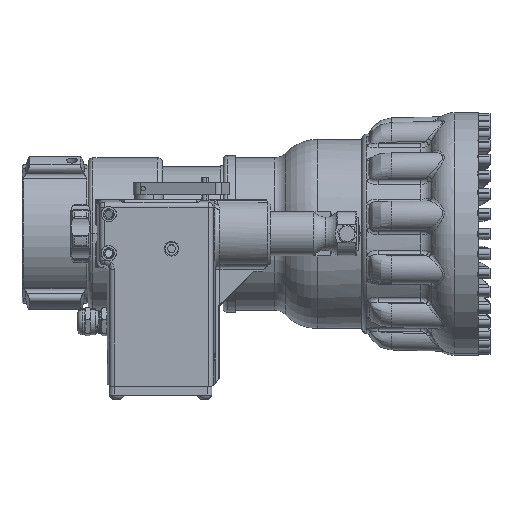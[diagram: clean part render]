
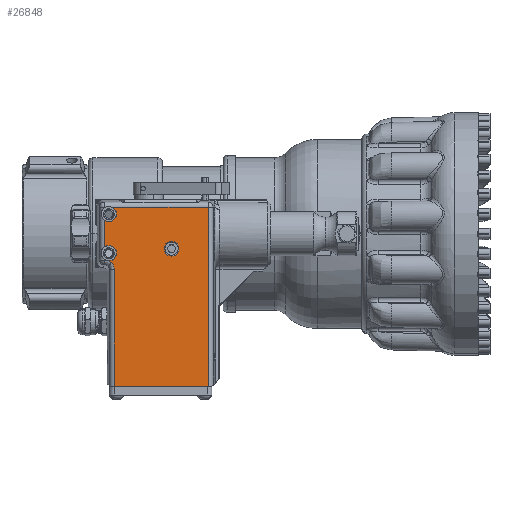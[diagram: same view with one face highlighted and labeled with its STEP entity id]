
A CAD part, top view. The second image highlights one B-rep face of the part: STEP entity #26848.
In plain terms, the highlighted planar face has unit normal (0, 0, 1).
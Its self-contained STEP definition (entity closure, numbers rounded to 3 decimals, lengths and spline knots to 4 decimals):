
#1327 =( BOUNDED_CURVE ( )  B_SPLINE_CURVE ( 3, ( #63621, #63607, #63628, #63629 ),
 .UNSPECIFIED., .F., .F. ) 
 B_SPLINE_CURVE_WITH_KNOTS ( ( 4, 4 ),
 ( 0., 0.3827 ),
 .UNSPECIFIED. ) 
 CURVE ( )  GEOMETRIC_REPRESENTATION_ITEM ( )  RATIONAL_B_SPLINE_CURVE ( ( 1., 0.988, 0.988, 1. ) ) 
 REPRESENTATION_ITEM ( '' )  );
#6693 = CARTESIAN_POINT ( 'NONE',  ( -2.728, 0.5, 5.085 ) ) ;
#6749 = CARTESIAN_POINT ( 'NONE',  ( -2.9338, -0.6947, 5.085 ) ) ;
#6789 = CARTESIAN_POINT ( 'NONE',  ( -2.7819, -0.9246, 5.085 ) ) ;
#10093 = VERTEX_POINT ( 'NONE', #32396 ) ;
#10102 = VERTEX_POINT ( 'NONE', #32406 ) ;
#10104 = VERTEX_POINT ( 'NONE', #32408 ) ;
#10108 = VERTEX_POINT ( 'NONE', #32412 ) ;
#10114 = VERTEX_POINT ( 'NONE', #32418 ) ;
#10116 = VERTEX_POINT ( 'NONE', #32420 ) ;
#10127 = VERTEX_POINT ( 'NONE', #32432 ) ;
#10216 = VERTEX_POINT ( 'NONE', #32528 ) ;
#10235 = VERTEX_POINT ( 'NONE', #32548 ) ;
#10363 = VERTEX_POINT ( 'NONE', #32684 ) ;
#16716 = EDGE_CURVE ( 'NONE', #10102, #10104, #56698, .T. ) ;
#16719 = EDGE_CURVE ( 'NONE', #37945, #10104, #56702, .T. ) ;
#16720 = EDGE_CURVE ( 'NONE', #10235, #37819, #1327, .T. ) ;
#16721 = EDGE_CURVE ( 'NONE', #10102, #10127, #56668, .T. ) ;
#16722 = EDGE_CURVE ( 'NONE', #10127, #10108, #56706, .T. ) ;
#16723 = EDGE_CURVE ( 'NONE', #37642, #10108, #56708, .T. ) ;
#16724 = EDGE_CURVE ( 'NONE', #10216, #10093, #56710, .T. ) ;
#16725 = EDGE_CURVE ( 'NONE', #10363, #10093, #56711, .T. ) ;
#16726 = EDGE_CURVE ( 'NONE', #10114, #10116, #56713, .T. ) ;
#16727 = EDGE_CURVE ( 'NONE', #10116, #10114, #56707, .T. ) ;
#21784 =( BOUNDED_CURVE ( )  B_SPLINE_CURVE ( 3, ( #41704, #70534, #70538, #70539 ),
 .UNSPECIFIED., .F., .F. ) 
 B_SPLINE_CURVE_WITH_KNOTS ( ( 4, 4 ),
 ( 5.4984, 6.2832 ),
 .UNSPECIFIED. ) 
 CURVE ( )  GEOMETRIC_REPRESENTATION_ITEM ( )  RATIONAL_B_SPLINE_CURVE ( ( 1., 0.949, 0.949, 1. ) ) 
 REPRESENTATION_ITEM ( '' )  );
#23256 = CIRCLE ( 'NONE', #46596, 0.195 ) ;
#23263 = CIRCLE ( 'NONE', #46599, 0.195 ) ;
#26848 = ADVANCED_FACE ( 'NONE', ( #36229, #36232 ), #34210, .T. ) ;
#32396 = CARTESIAN_POINT ( 'NONE',  ( -3.0369, -0.3417, 5.085 ) ) ;
#32406 = CARTESIAN_POINT ( 'NONE',  ( -0.3825, -3.9, 5.085 ) ) ;
#32408 = CARTESIAN_POINT ( 'NONE',  ( -2.7819, -3.9, 5.085 ) ) ;
#32412 = CARTESIAN_POINT ( 'NONE',  ( -2.8471, 0.6796, 5.085 ) ) ;
#32418 = CARTESIAN_POINT ( 'NONE',  ( -1.1495, -0.385, 5.085 ) ) ;
#32420 = CARTESIAN_POINT ( 'NONE',  ( -1.4865, -0.385, 5.085 ) ) ;
#32432 = CARTESIAN_POINT ( 'NONE',  ( -0.3825, 0.6796, 5.085 ) ) ;
#32528 = CARTESIAN_POINT ( 'NONE',  ( -3.0369, 0.3417, 5.085 ) ) ;
#32548 = CARTESIAN_POINT ( 'NONE',  ( -2.855, -0.7479, 5.085 ) ) ;
#32684 = CARTESIAN_POINT ( 'NONE',  ( -2.728, -0.5, 5.085 ) ) ;
#34205 = CARTESIAN_POINT ( 'NONE',  ( -2.9672, -0.8601, 5.085 ) ) ;
#34210 = PLANE ( 'NONE',  #34710 ) ;
#34212 = DIRECTION ( 'NONE',  ( 0., 0., 1. ) ) ;
#34213 = DIRECTION ( 'NONE',  ( 1., 0., 0. ) ) ;
#34710 = AXIS2_PLACEMENT_3D ( 'NONE', #34205, #34212, #34213 ) ;
#36229 = FACE_OUTER_BOUND ( 'NONE', #44337, .T. ) ;
#36232 = FACE_BOUND ( 'NONE', #44335, .T. ) ;
#37642 = VERTEX_POINT ( 'NONE', #6693 ) ;
#37819 = VERTEX_POINT ( 'NONE', #6749 ) ;
#37945 = VERTEX_POINT ( 'NONE', #6789 ) ;
#41652 = CARTESIAN_POINT ( 'NONE',  ( -2.923, 0.5, 5.085 ) ) ;
#41653 = DIRECTION ( 'NONE',  ( 0., 0., 1. ) ) ;
#41654 = DIRECTION ( 'NONE',  ( 1., 0., 0. ) ) ;
#41704 = CARTESIAN_POINT ( 'NONE',  ( -2.7819, -0.9246, 5.085 ) ) ;
#44085 = ORIENTED_EDGE ( 'NONE', *, *, #61921, .F. ) ;
#44086 = ORIENTED_EDGE ( 'NONE', *, *, #16720, .F. ) ;
#44087 = ORIENTED_EDGE ( 'NONE', *, *, #61923, .F. ) ;
#44088 = ORIENTED_EDGE ( 'NONE', *, *, #16719, .T. ) ;
#44089 = ORIENTED_EDGE ( 'NONE', *, *, #16716, .F. ) ;
#44090 = ORIENTED_EDGE ( 'NONE', *, *, #16721, .T. ) ;
#44091 = ORIENTED_EDGE ( 'NONE', *, *, #16722, .T. ) ;
#44092 = ORIENTED_EDGE ( 'NONE', *, *, #16723, .F. ) ;
#44093 = ORIENTED_EDGE ( 'NONE', *, *, #61912, .F. ) ;
#44094 = ORIENTED_EDGE ( 'NONE', *, *, #16724, .T. ) ;
#44095 = ORIENTED_EDGE ( 'NONE', *, *, #16725, .F. ) ;
#44096 = ORIENTED_EDGE ( 'NONE', *, *, #16726, .F. ) ;
#44097 = ORIENTED_EDGE ( 'NONE', *, *, #16727, .F. ) ;
#44335 = EDGE_LOOP ( 'NONE', ( #44096, #44097 ) ) ;
#44337 = EDGE_LOOP ( 'NONE', ( #44085, #44086, #44087, #44088, #44089, #44090, #44091, #44092, #44093, #44094, #44095 ) ) ;
#46596 = AXIS2_PLACEMENT_3D ( 'NONE', #41652, #41653, #41654 ) ;
#46599 = AXIS2_PLACEMENT_3D ( 'NONE', #70535, #70536, #70537 ) ;
#47738 = AXIS2_PLACEMENT_3D ( 'NONE', #63648, #63650, #63652 ) ;
#47739 = AXIS2_PLACEMENT_3D ( 'NONE', #63659, #63661, #63662 ) ;
#47740 = AXIS2_PLACEMENT_3D ( 'NONE', #63666, #63667, #63668 ) ;
#47741 = AXIS2_PLACEMENT_3D ( 'NONE', #63674, #63676, #63678 ) ;
#56668 = LINE ( 'NONE', #63626, #56705 ) ;
#56698 = LINE ( 'NONE', #63584, #56700 ) ;
#56700 = VECTOR ( 'NONE', #63586, 39.3701 ) ;
#56702 = LINE ( 'NONE', #63619, #56704 ) ;
#56704 = VECTOR ( 'NONE', #63623, 39.3701 ) ;
#56705 = VECTOR ( 'NONE', #63636, 39.3701 ) ;
#56706 = LINE ( 'NONE', #63638, #56709 ) ;
#56707 = CIRCLE ( 'NONE', #47741, 0.1685 ) ;
#56708 = CIRCLE ( 'NONE', #47738, 0.195 ) ;
#56709 = VECTOR ( 'NONE', #63641, 39.3701 ) ;
#56710 = LINE ( 'NONE', #63610, #56712 ) ;
#56711 = CIRCLE ( 'NONE', #47739, 0.195 ) ;
#56712 = VECTOR ( 'NONE', #63624, 39.3701 ) ;
#56713 = CIRCLE ( 'NONE', #47740, 0.1685 ) ;
#61912 = EDGE_CURVE ( 'NONE', #10216, #37642, #23256, .T. ) ;
#61921 = EDGE_CURVE ( 'NONE', #37819, #10363, #23263, .T. ) ;
#61923 = EDGE_CURVE ( 'NONE', #37945, #10235, #21784, .T. ) ;
#63584 = CARTESIAN_POINT ( 'NONE',  ( -2.9672, -3.9, 5.085 ) ) ;
#63586 = DIRECTION ( 'NONE',  ( -1., 0., 0. ) ) ;
#63607 = CARTESIAN_POINT ( 'NONE',  ( -2.8777, -0.7252, 5.085 ) ) ;
#63610 = CARTESIAN_POINT ( 'NONE',  ( -3.0369, -0.7955, 5.085 ) ) ;
#63619 = CARTESIAN_POINT ( 'NONE',  ( -2.7819, -3.9305, 5.085 ) ) ;
#63621 = CARTESIAN_POINT ( 'NONE',  ( -2.855, -0.7479, 5.085 ) ) ;
#63623 = DIRECTION ( 'NONE',  ( 0., -1., 0. ) ) ;
#63624 = DIRECTION ( 'NONE',  ( 0., -1., 0. ) ) ;
#63626 = CARTESIAN_POINT ( 'NONE',  ( -0.3825, 0.8003, 5.085 ) ) ;
#63628 = CARTESIAN_POINT ( 'NONE',  ( -2.9043, -0.7073, 5.085 ) ) ;
#63629 = CARTESIAN_POINT ( 'NONE',  ( -2.9338, -0.6947, 5.085 ) ) ;
#63636 = DIRECTION ( 'NONE',  ( 0., 1., 0. ) ) ;
#63638 = CARTESIAN_POINT ( 'NONE',  ( -3.1576, 0.6796, 5.085 ) ) ;
#63641 = DIRECTION ( 'NONE',  ( -1., 0., 0. ) ) ;
#63648 = CARTESIAN_POINT ( 'NONE',  ( -2.923, 0.5, 5.085 ) ) ;
#63650 = DIRECTION ( 'NONE',  ( 0., 0., 1. ) ) ;
#63652 = DIRECTION ( 'NONE',  ( 1., 0., 0. ) ) ;
#63659 = CARTESIAN_POINT ( 'NONE',  ( -2.923, -0.5, 5.085 ) ) ;
#63661 = DIRECTION ( 'NONE',  ( 0., 0., 1. ) ) ;
#63662 = DIRECTION ( 'NONE',  ( -1., 0., 0. ) ) ;
#63666 = CARTESIAN_POINT ( 'NONE',  ( -1.318, -0.385, 5.085 ) ) ;
#63667 = DIRECTION ( 'NONE',  ( 0., 0., 1. ) ) ;
#63668 = DIRECTION ( 'NONE',  ( 1., 0., 0. ) ) ;
#63674 = CARTESIAN_POINT ( 'NONE',  ( -1.318, -0.385, 5.085 ) ) ;
#63676 = DIRECTION ( 'NONE',  ( 0., 0., 1. ) ) ;
#63678 = DIRECTION ( 'NONE',  ( 1., 0., 0. ) ) ;
#70534 = CARTESIAN_POINT ( 'NONE',  ( -2.7819, -0.8574, 5.085 ) ) ;
#70535 = CARTESIAN_POINT ( 'NONE',  ( -2.923, -0.5, 5.085 ) ) ;
#70536 = DIRECTION ( 'NONE',  ( 0., 0., 1. ) ) ;
#70537 = DIRECTION ( 'NONE',  ( -1., 0., 0. ) ) ;
#70538 = CARTESIAN_POINT ( 'NONE',  ( -2.8075, -0.7954, 5.085 ) ) ;
#70539 = CARTESIAN_POINT ( 'NONE',  ( -2.855, -0.7479, 5.085 ) ) ;
